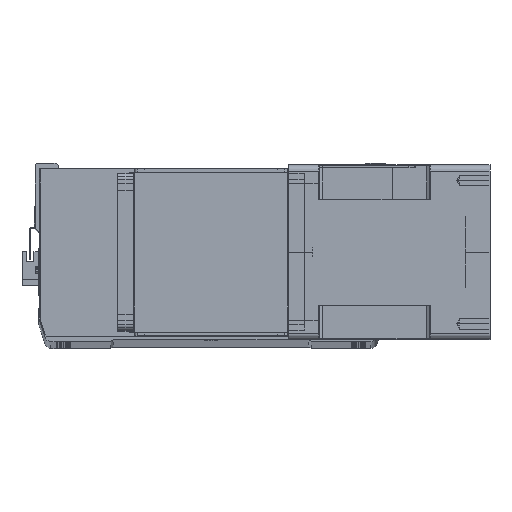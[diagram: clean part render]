
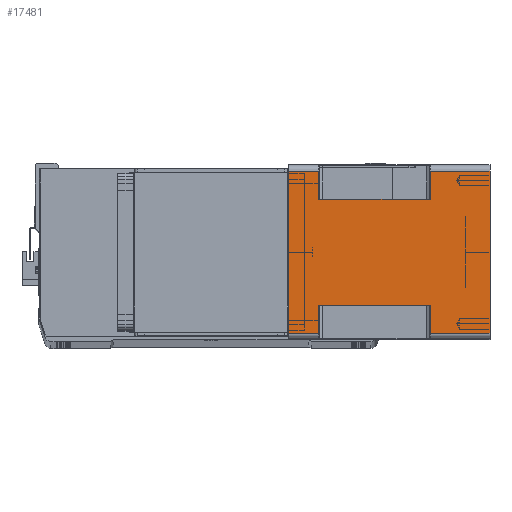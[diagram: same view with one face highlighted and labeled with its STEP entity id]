
A CAD part, top view. The second image highlights one B-rep face of the part: STEP entity #17481.
In plain terms, the highlighted planar face has unit normal (0, 0, 1) as drawn and (1, 0, 0) by its records, which use the part's own axes.
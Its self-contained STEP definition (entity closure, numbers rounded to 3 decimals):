
#40 = VECTOR ( 'NONE', #366, 1000. ) ;
#58 = CARTESIAN_POINT ( 'NONE',  ( 71., 66., -24.5 ) ) ;
#102 = DIRECTION ( 'NONE',  ( 0., 1., 0. ) ) ;
#366 = DIRECTION ( 'NONE',  ( 0., 0., 1. ) ) ;
#983 = VECTOR ( 'NONE', #8264, 1000. ) ;
#1534 = EDGE_LOOP ( 'NONE', ( #5372, #2552, #27057, #2696, #15351, #20012, #12321, #28555, #29182, #26608, #11469, #5670 ) ) ;
#2187 = CARTESIAN_POINT ( 'NONE',  ( 71., -66., -164. ) ) ;
#2552 = ORIENTED_EDGE ( 'NONE', *, *, #6748, .T. ) ;
#2696 = ORIENTED_EDGE ( 'NONE', *, *, #33863, .T. ) ;
#3187 = VECTOR ( 'NONE', #102, 1000. ) ;
#3518 = DIRECTION ( 'NONE',  ( 0., 1., 0. ) ) ;
#4606 = VERTEX_POINT ( 'NONE', #35324 ) ;
#4803 = CARTESIAN_POINT ( 'NONE',  ( 71., -66., -24.5 ) ) ;
#4943 = DIRECTION ( 'NONE',  ( 0., 0., 1. ) ) ;
#5031 = CARTESIAN_POINT ( 'NONE',  ( 71., 43., -115.5 ) ) ;
#5372 = ORIENTED_EDGE ( 'NONE', *, *, #29980, .F. ) ;
#5670 = ORIENTED_EDGE ( 'NONE', *, *, #9787, .T. ) ;
#6463 = LINE ( 'NONE', #20299, #26567 ) ;
#6748 = EDGE_CURVE ( 'NONE', #23213, #22099, #11176, .T. ) ;
#6869 = CARTESIAN_POINT ( 'NONE',  ( 71., -66., -115.5 ) ) ;
#7453 = VECTOR ( 'NONE', #4943, 1000. ) ;
#7828 = CARTESIAN_POINT ( 'NONE',  ( 71., 43., -164. ) ) ;
#8264 = DIRECTION ( 'NONE',  ( 0., 0., 1. ) ) ;
#8297 = LINE ( 'NONE', #27392, #983 ) ;
#8324 = CARTESIAN_POINT ( 'NONE',  ( 71., -66., -24.5 ) ) ;
#8710 = CARTESIAN_POINT ( 'NONE',  ( 71., -66., -115.5 ) ) ;
#8843 = VECTOR ( 'NONE', #3518, 1000. ) ;
#9000 = VERTEX_POINT ( 'NONE', #9328 ) ;
#9328 = CARTESIAN_POINT ( 'NONE',  ( 71., 66., -164. ) ) ;
#9787 = EDGE_CURVE ( 'NONE', #31272, #4606, #25187, .T. ) ;
#10272 = LINE ( 'NONE', #5031, #15423 ) ;
#11176 = LINE ( 'NONE', #8710, #15003 ) ;
#11469 = ORIENTED_EDGE ( 'NONE', *, *, #28393, .F. ) ;
#11779 = VECTOR ( 'NONE', #21725, 1000. ) ;
#12321 = ORIENTED_EDGE ( 'NONE', *, *, #12605, .F. ) ;
#12605 = EDGE_CURVE ( 'NONE', #12929, #32913, #29207, .T. ) ;
#12834 = DIRECTION ( 'NONE',  ( 0., 1., 0. ) ) ;
#12929 = VERTEX_POINT ( 'NONE', #20865 ) ;
#13310 = CARTESIAN_POINT ( 'NONE',  ( 71., -43., -24.5 ) ) ;
#14257 = CARTESIAN_POINT ( 'NONE',  ( 71., -66., -164. ) ) ;
#14711 = EDGE_CURVE ( 'NONE', #9000, #23262, #6463, .T. ) ;
#15003 = VECTOR ( 'NONE', #19089, 1000. ) ;
#15351 = ORIENTED_EDGE ( 'NONE', *, *, #14711, .T. ) ;
#15423 = VECTOR ( 'NONE', #32656, 1000. ) ;
#16555 = DIRECTION ( 'NONE',  ( 0., 1., 0. ) ) ;
#17481 = ADVANCED_FACE ( 'NONE', ( #33302 ), #17988, .T. ) ;
#17988 = PLANE ( 'NONE',  #22896 ) ;
#18517 = EDGE_CURVE ( 'NONE', #12929, #33279, #30150, .T. ) ;
#18606 = LINE ( 'NONE', #21862, #11779 ) ;
#18659 = VERTEX_POINT ( 'NONE', #14257 ) ;
#18897 = CARTESIAN_POINT ( 'NONE',  ( 71., 66., 0. ) ) ;
#18998 = LINE ( 'NONE', #29678, #3187 ) ;
#19089 = DIRECTION ( 'NONE',  ( 0., -1., 0. ) ) ;
#20012 = ORIENTED_EDGE ( 'NONE', *, *, #26078, .T. ) ;
#20299 = CARTESIAN_POINT ( 'NONE',  ( 71., 66., -164. ) ) ;
#20718 = LINE ( 'NONE', #2187, #7453 ) ;
#20865 = CARTESIAN_POINT ( 'NONE',  ( 71., 43., -24.5 ) ) ;
#20956 = CARTESIAN_POINT ( 'NONE',  ( 71., -66., -164. ) ) ;
#21022 = VERTEX_POINT ( 'NONE', #21698 ) ;
#21698 = CARTESIAN_POINT ( 'NONE',  ( 71., -66., 0. ) ) ;
#21725 = DIRECTION ( 'NONE',  ( 0., 0., 1. ) ) ;
#21862 = CARTESIAN_POINT ( 'NONE',  ( 71., -66., -164. ) ) ;
#22099 = VERTEX_POINT ( 'NONE', #6869 ) ;
#22398 = CARTESIAN_POINT ( 'NONE',  ( 71., 66., -164. ) ) ;
#22504 = CARTESIAN_POINT ( 'NONE',  ( 71., -66., -164. ) ) ;
#22710 = CARTESIAN_POINT ( 'NONE',  ( 71., 43., -115.5 ) ) ;
#22896 = AXIS2_PLACEMENT_3D ( 'NONE', #20956, #26604, #12834 ) ;
#23213 = VERTEX_POINT ( 'NONE', #30107 ) ;
#23262 = VERTEX_POINT ( 'NONE', #32722 ) ;
#23939 = VECTOR ( 'NONE', #32465, 1000. ) ;
#24422 = DIRECTION ( 'NONE',  ( 0., 0., -1. ) ) ;
#24718 = EDGE_CURVE ( 'NONE', #18659, #22099, #20718, .T. ) ;
#25187 = LINE ( 'NONE', #13310, #23939 ) ;
#25628 = VERTEX_POINT ( 'NONE', #18897 ) ;
#25810 = DIRECTION ( 'NONE',  ( 0., 0., 1. ) ) ;
#26078 = EDGE_CURVE ( 'NONE', #23262, #32913, #10272, .T. ) ;
#26277 = VECTOR ( 'NONE', #16555, 1000. ) ;
#26567 = VECTOR ( 'NONE', #25810, 1000. ) ;
#26604 = DIRECTION ( 'NONE',  ( 1., 0., 0. ) ) ;
#26608 = ORIENTED_EDGE ( 'NONE', *, *, #28981, .F. ) ;
#27057 = ORIENTED_EDGE ( 'NONE', *, *, #24718, .F. ) ;
#27392 = CARTESIAN_POINT ( 'NONE',  ( 71., -43., -164. ) ) ;
#28393 = EDGE_CURVE ( 'NONE', #31272, #21022, #18606, .T. ) ;
#28555 = ORIENTED_EDGE ( 'NONE', *, *, #18517, .T. ) ;
#28981 = EDGE_CURVE ( 'NONE', #21022, #25628, #18998, .T. ) ;
#29182 = ORIENTED_EDGE ( 'NONE', *, *, #35171, .T. ) ;
#29207 = LINE ( 'NONE', #7828, #30074 ) ;
#29678 = CARTESIAN_POINT ( 'NONE',  ( 71., -66., 0. ) ) ;
#29980 = EDGE_CURVE ( 'NONE', #23213, #4606, #8297, .T. ) ;
#30074 = VECTOR ( 'NONE', #24422, 1000. ) ;
#30107 = CARTESIAN_POINT ( 'NONE',  ( 71., -43., -115.5 ) ) ;
#30150 = LINE ( 'NONE', #8324, #26277 ) ;
#31272 = VERTEX_POINT ( 'NONE', #4803 ) ;
#31764 = LINE ( 'NONE', #22398, #40 ) ;
#32465 = DIRECTION ( 'NONE',  ( 0., 1., 0. ) ) ;
#32656 = DIRECTION ( 'NONE',  ( 0., -1., 0. ) ) ;
#32722 = CARTESIAN_POINT ( 'NONE',  ( 71., 66., -115.5 ) ) ;
#32913 = VERTEX_POINT ( 'NONE', #22710 ) ;
#33279 = VERTEX_POINT ( 'NONE', #58 ) ;
#33302 = FACE_OUTER_BOUND ( 'NONE', #1534, .T. ) ;
#33668 = LINE ( 'NONE', #22504, #8843 ) ;
#33863 = EDGE_CURVE ( 'NONE', #18659, #9000, #33668, .T. ) ;
#35171 = EDGE_CURVE ( 'NONE', #33279, #25628, #31764, .T. ) ;
#35324 = CARTESIAN_POINT ( 'NONE',  ( 71., -43., -24.5 ) ) ;
